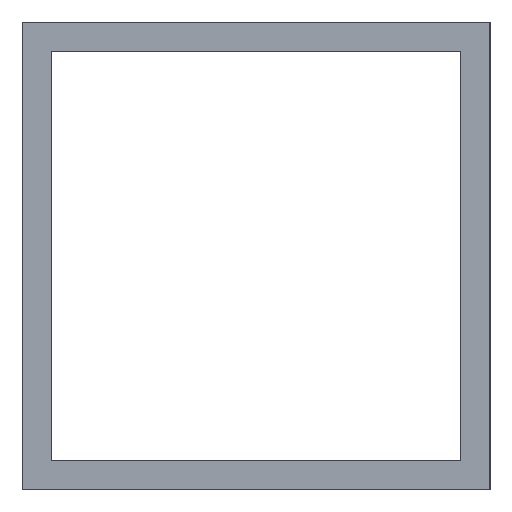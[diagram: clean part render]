
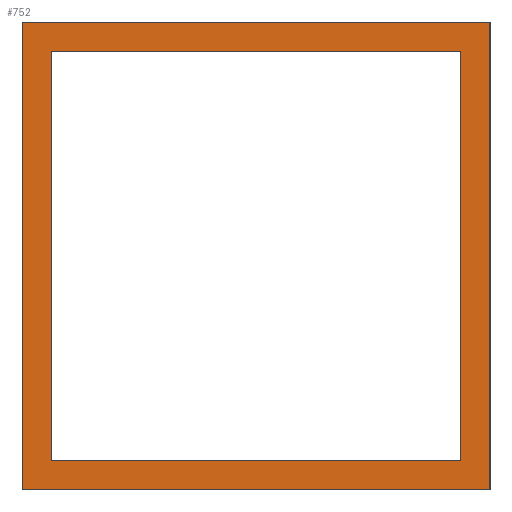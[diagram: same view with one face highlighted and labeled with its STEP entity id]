
A CAD part, left-side view. The second image highlights one B-rep face of the part: STEP entity #752.
In plain terms, the highlighted planar face has unit normal (-1, 0, 0).
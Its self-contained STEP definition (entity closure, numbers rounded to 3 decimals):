
#374=ORIENTED_EDGE('',*,*,#500,.T.);
#375=ORIENTED_EDGE('',*,*,#502,.T.);
#376=ORIENTED_EDGE('',*,*,#491,.T.);
#377=ORIENTED_EDGE('',*,*,#497,.T.);
#378=ORIENTED_EDGE('',*,*,#506,.T.);
#379=ORIENTED_EDGE('',*,*,#507,.T.);
#380=ORIENTED_EDGE('',*,*,#508,.T.);
#381=ORIENTED_EDGE('',*,*,#509,.T.);
#419=VECTOR('',#581,1.);
#423=VECTOR('',#591,1.);
#426=VECTOR('',#596,1.);
#428=VECTOR('',#600,1.);
#430=VECTOR('',#608,1.);
#431=VECTOR('',#609,1.);
#432=VECTOR('',#610,1.);
#433=VECTOR('',#611,1.);
#443=LINE('',#651,#419);
#447=LINE('',#663,#423);
#450=LINE('',#669,#426);
#452=LINE('',#672,#428);
#454=LINE('',#681,#430);
#455=LINE('',#683,#431);
#456=LINE('',#685,#432);
#457=LINE('',#686,#433);
#467=VERTEX_POINT('',#648);
#468=VERTEX_POINT('',#650);
#473=VERTEX_POINT('',#661);
#475=VERTEX_POINT('',#667);
#478=VERTEX_POINT('',#679);
#479=VERTEX_POINT('',#680);
#480=VERTEX_POINT('',#682);
#481=VERTEX_POINT('',#684);
#491=EDGE_CURVE('',#468,#467,#443,.T.);
#497=EDGE_CURVE('',#467,#473,#447,.T.);
#500=EDGE_CURVE('',#473,#475,#450,.T.);
#502=EDGE_CURVE('',#475,#468,#452,.T.);
#506=EDGE_CURVE('',#478,#479,#454,.T.);
#507=EDGE_CURVE('',#479,#480,#455,.T.);
#508=EDGE_CURVE('',#480,#481,#456,.T.);
#509=EDGE_CURVE('',#481,#478,#457,.T.);
#530=EDGE_LOOP('',(#374,#375,#376,#377));
#531=EDGE_LOOP('',(#378,#379,#380,#381));
#558=FACE_BOUND('',#530,.T.);
#559=FACE_BOUND('',#531,.T.);
#581=DIRECTION('',(0.,80.,0.));
#591=DIRECTION('',(0.,0.,-80.));
#596=DIRECTION('',(0.,-80.,0.));
#600=DIRECTION('',(0.,0.,80.));
#606=DIRECTION('',(-1.,0.,0.));
#607=DIRECTION('',(0.,1.,0.));
#608=DIRECTION('',(0.,0.,-70.));
#609=DIRECTION('',(0.,70.,0.));
#610=DIRECTION('',(0.,0.,70.));
#611=DIRECTION('',(0.,-70.,0.));
#648=CARTESIAN_POINT('',(-10.,40.,40.));
#650=CARTESIAN_POINT('',(-10.,-40.,40.));
#651=CARTESIAN_POINT('',(-10.,-40.,40.));
#661=CARTESIAN_POINT('',(-10.,40.,-40.));
#663=CARTESIAN_POINT('',(-10.,40.,40.));
#667=CARTESIAN_POINT('',(-10.,-40.,-40.));
#669=CARTESIAN_POINT('',(-10.,40.,-40.));
#672=CARTESIAN_POINT('',(-10.,-40.,-40.));
#678=CARTESIAN_POINT('',(-10.,40.,-40.));
#679=CARTESIAN_POINT('',(-10.,-35.,35.));
#680=CARTESIAN_POINT('',(-10.,-35.,-35.));
#681=CARTESIAN_POINT('',(-10.,-35.,35.));
#682=CARTESIAN_POINT('',(-10.,35.,-35.));
#683=CARTESIAN_POINT('',(-10.,-35.,-35.));
#684=CARTESIAN_POINT('',(-10.,35.,35.));
#685=CARTESIAN_POINT('',(-10.,35.,-35.));
#686=CARTESIAN_POINT('',(-10.,35.,35.));
#724=AXIS2_PLACEMENT_3D('',#678,#606,#607);
#742=PLANE('',#724);
#752=ADVANCED_FACE('',(#558,#559),#742,.T.);
